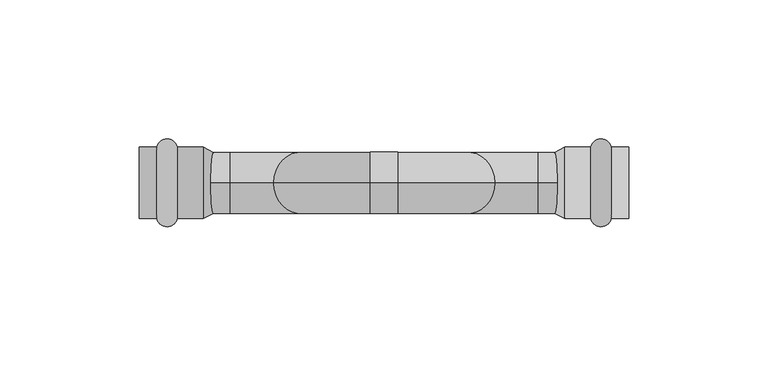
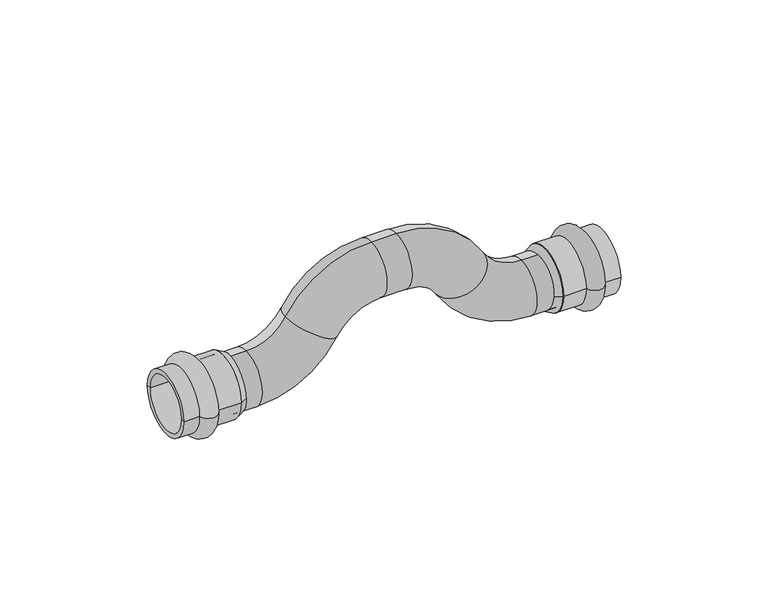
"""IFC4 building model written with IfcOpenShell, lengths in millimetres: pipe fitting geometry, VALTEC_VTi.971.I_Обвод (раструб–раструб)_Нержавеющая сталь : VTi.971.I."""

from ifc_helpers import new_model, si_unit, point, frame, origin, place, context, project, spatial, polyline, circle_curve, ellipse_curve, trimmed, source, transform, mapped, element, save
from ifc_brep_helpers import plane_surface, cylinder_surface, revolved_surface, advanced_brep


def pipe_fitting_e7c7f339(model_context):
    return source(origin(), model_context, "Body", "AdvancedBrep", [
        advanced_brep(
        [(-65.0, 0.0, -11.0), (-65.0, 0.0, 11.0), (-55.5, 0.0, -11.0), (-55.5, 0.0, 11.0), (-5.0, 0.0, 40.0), (-5.0, 0.0, 18.0), (5.0, 0.0, 18.0), (5.0, 0.0, 40.0), (65.0, 0.0, -11.0), (65.0, 0.0, 11.0), (55.5, 0.0, 11.0), (55.5, 0.0, -11.0), (-39.7506266, 0.0, 20.0441946), (-20.7493734, 0.0, 8.9558054), (39.7506266, 0.0, 20.0441946), (20.7493734, 0.0, 8.9558054)],
        [
            (0, 1, circle_curve(frame((-65.0, 0.0, 0.0), z_axis=(-1.0, 0.0, 0.0), x_axis=(0.0, 0.0, 1.0)), 11.0)),
            (1, 0, circle_curve(frame((-65.0, 0.0, 0.0), z_axis=(-1.0, 0.0, 0.0), x_axis=(0.0, 0.0, 1.0)), 11.0)),
            (0, 2),
            (2, 3, circle_curve(frame((-55.5, 0.0, 0.0), z_axis=(-1.0, 0.0, 0.0), x_axis=(0.0, 0.0, 1.0)), 11.0)),
            (3, 1),
            (3, 2, circle_curve(frame((-55.5, 0.0, 0.0), z_axis=(-1.0, 0.0, 0.0), x_axis=(0.0, 0.0, 1.0)), 11.0)),
            (4, 5, circle_curve(frame((-5.0, 0.0, 29.0), z_axis=(1.0, 0.0, 0.0), x_axis=(0.0, 0.0, 1.0)), 11.0)),
            (5, 6),
            (6, 7, circle_curve(frame((5.0, 0.0, 29.0), z_axis=(-1.0, 0.0, 0.0), x_axis=(0.0, 0.0, 1.0)), 11.0)),
            (7, 4),
            (5, 4, circle_curve(frame((-5.0, 0.0, 29.0), z_axis=(1.0, 0.0, 0.0), x_axis=(0.0, 0.0, 1.0)), 11.0)),
            (7, 6, circle_curve(frame((5.0, 0.0, 29.0), z_axis=(-1.0, 0.0, 0.0), x_axis=(0.0, 0.0, 1.0)), 11.0)),
            (8, 9, circle_curve(frame((65.0, 0.0, 0.0), z_axis=(1.0, 0.0, 0.0), x_axis=(0.0, 0.0, 1.0)), 11.0)),
            (9, 8, circle_curve(frame((65.0, 0.0, 0.0), z_axis=(1.0, 0.0, 0.0), x_axis=(0.0, 0.0, 1.0)), 11.0)),
            (10, 11, circle_curve(frame((55.5, 0.0, 0.0), z_axis=(1.0, 0.0, 0.0), x_axis=(0.0, 0.0, 1.0)), 11.0)),
            (11, 8),
            (9, 10),
            (11, 10, circle_curve(frame((55.5, 0.0, 0.0), z_axis=(1.0, 0.0, 0.0), x_axis=(0.0, 0.0, 1.0)), 11.0)),
            (12, 3, circle_curve(frame((-55.5, 0.0, 29.2349138), z_axis=(0.0, 1.0, 0.0), x_axis=(0.0, 0.0, -1.0)), 18.2349138)),
            (2, 13, circle_curve(frame((-55.5, 0.0, 29.2349138), z_axis=(0.0, -1.0, 0.0), x_axis=(0.0, 0.0, -1.0)), 40.2349138)),
            (13, 12, circle_curve(frame((-30.25, 0.0, 14.5), z_axis=(-0.5040176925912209, 0.0, -0.8636933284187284), x_axis=(-0.8636933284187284, 0.0, 0.5040176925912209)), 11.0)),
            (12, 13, circle_curve(frame((-30.25, 0.0, 14.5), z_axis=(-0.5040176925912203, 0.0, -0.8636933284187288), x_axis=(-0.8636933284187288, 0.0, 0.5040176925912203)), 11.0)),
            (4, 12, circle_curve(frame((-5.0, 0.0, -0.2349138), z_axis=(0.0, -1.0, 0.0), x_axis=(-0.8636933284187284, 0.0, 0.5040176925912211)), 40.2349138)),
            (13, 5, circle_curve(frame((-5.0, 0.0, -0.2349138), z_axis=(0.0, 1.0, 0.0), x_axis=(-0.8636933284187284, 0.0, 0.5040176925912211)), 18.2349138)),
            (14, 7, circle_curve(frame((5.0, 0.0, -0.2349138), z_axis=(0.0, -1.0, 0.0), x_axis=(0.0, 0.0, 1.0)), 40.2349138)),
            (6, 15, circle_curve(frame((5.0, 0.0, -0.2349138), z_axis=(0.0, 1.0, 0.0), x_axis=(0.0, 0.0, 1.0)), 18.2349138)),
            (15, 14, circle_curve(frame((30.25, 0.0, 14.5), z_axis=(-0.5040176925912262, 0.0, 0.8636933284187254), x_axis=(0.8636933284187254, 0.0, 0.5040176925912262)), 11.0)),
            (14, 15, circle_curve(frame((30.25, 0.0, 14.5), z_axis=(-0.5040176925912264, 0.0, 0.8636933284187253), x_axis=(0.8636933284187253, 0.0, 0.5040176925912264)), 11.0)),
            (10, 14, circle_curve(frame((55.5, 0.0, 29.2349138), z_axis=(0.0, 1.0, 0.0), x_axis=(-0.863693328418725, 0.0, -0.5040176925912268)), 18.2349138)),
            (15, 11, circle_curve(frame((55.5, 0.0, 29.2349138), z_axis=(0.0, -1.0, 0.0), x_axis=(-0.863693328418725, 0.0, -0.5040176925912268)), 40.2349138)),
        ],
        [
            plane_surface(frame((-65.0, 0.0, 0.0), z_axis=(-1.0, 0.0, 0.0), x_axis=(0.0, -1.0, 0.0))),
            cylinder_surface(frame((-65.0, 0.0, 0.0), z_axis=(-1.0, 0.0, 0.0), x_axis=(0.0, 0.0, 1.0)), 11.0),
            cylinder_surface(frame((-5.0, 0.0, 29.0), z_axis=(-1.0, 0.0, 0.0), x_axis=(0.0, 0.0, 1.0)), 11.0),
            plane_surface(frame((65.0, 0.0, 0.0), z_axis=(1.0, 0.0, 0.0), x_axis=(0.0, -1.0, 0.0))),
            cylinder_surface(frame((55.5, 0.0, 0.0), z_axis=(-1.0, 0.0, 0.0), x_axis=(0.0, 0.0, 1.0)), 11.0),
            revolved_surface(trimmed(ellipse_curve(frame((-55.5, 0.0, 0.0), z_axis=(-1.0, 0.0, 0.0), x_axis=(0.0, 0.0, 1.0)), 11.0, 11.0), [point((-55.5, 0.0, -11.0))], [point((-55.5, 0.0, 11.0))], True, "CARTESIAN"), (-55.5, 0.0, 29.2349138), (0.0, -1.0, 0.0)),
            revolved_surface(trimmed(ellipse_curve(frame((-55.5, 0.0, 0.0), z_axis=(-1.0, 0.0, 0.0), x_axis=(0.0, 0.0, 1.0)), 11.0, 11.0), [point((-55.5, 0.0, 11.0))], [point((-55.5, 0.0, -11.0))], True, "CARTESIAN"), (-55.5, 0.0, 29.2349138), (0.0, -1.0, 0.0)),
            revolved_surface(trimmed(ellipse_curve(frame((-30.25, 0.0, 14.5), z_axis=(-0.5040176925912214, 0.0, -0.8636933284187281), x_axis=(-0.8636933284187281, 0.0, 0.5040176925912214)), 11.0, 11.0), [point((-20.7493734, 0.0, 8.9558054))], [point((-39.7506266, 0.0, 20.0441946))], True, "CARTESIAN"), (-5.0, 0.0, -0.2349138), (0.0, 1.0, 0.0)),
            revolved_surface(trimmed(ellipse_curve(frame((-30.25, 0.0, 14.5), z_axis=(-0.5040176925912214, 0.0, -0.8636933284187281), x_axis=(-0.8636933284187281, 0.0, 0.5040176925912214)), 11.0, 11.0), [point((-39.7506266, 0.0, 20.0441946))], [point((-20.7493734, 0.0, 8.9558054))], True, "CARTESIAN"), (-5.0, 0.0, -0.2349138), (0.0, 1.0, 0.0)),
            revolved_surface(trimmed(ellipse_curve(frame((5.0, 0.0, 29.0), z_axis=(-1.0, 0.0, 0.0), x_axis=(0.0, 0.0, 1.0)), 11.0, 11.0), [point((5.0, 0.0, 18.0))], [point((5.0, 0.0, 40.0))], True, "CARTESIAN"), (5.0, 0.0, -0.2349138), (0.0, 1.0, 0.0)),
            revolved_surface(trimmed(ellipse_curve(frame((5.0, 0.0, 29.0), z_axis=(-1.0, 0.0, 0.0), x_axis=(0.0, 0.0, 1.0)), 11.0, 11.0), [point((5.0, 0.0, 40.0))], [point((5.0, 0.0, 18.0))], True, "CARTESIAN"), (5.0, 0.0, -0.2349138), (0.0, 1.0, 0.0)),
            revolved_surface(trimmed(ellipse_curve(frame((30.25, 0.0, 14.5), z_axis=(-0.5040176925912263, 0.0, 0.8636933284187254), x_axis=(0.8636933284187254, 0.0, 0.5040176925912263)), 11.0, 11.0), [point((20.7493734, 0.0, 8.9558054))], [point((39.7506266, 0.0, 20.0441946))], True, "CARTESIAN"), (55.5, 0.0, 29.2349138), (0.0, -1.0, 0.0)),
            revolved_surface(trimmed(ellipse_curve(frame((30.25, 0.0, 14.5), z_axis=(-0.5040176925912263, 0.0, 0.8636933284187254), x_axis=(0.8636933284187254, 0.0, 0.5040176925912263)), 11.0, 11.0), [point((39.7506266, 0.0, 20.0441946))], [point((20.7493734, 0.0, 8.9558054))], True, "CARTESIAN"), (55.5, 0.0, 29.2349138), (0.0, -1.0, 0.0)),
        ],
        [
            (0, [[1, 2]]),
            (1, [[-1, 3, 4, 5]]),
            (1, [[-2, -5, 6, -3]]),
            (2, [[7, 8, 9, 10]]),
            (2, [[11, -10, 12, -8]]),
            (3, [[13, 14]]),
            (4, [[15, 16, -14, 17]]),
            (4, [[18, -17, -13, -16]]),
            (5, [[19, -4, 20, 21]]),
            (6, [[-20, -6, -19, 22]]),
            (7, [[23, -21, 24, -7]]),
            (8, [[-24, -22, -23, -11]]),
            (9, [[25, -9, 26, 27]]),
            (10, [[-26, -12, -25, 28]]),
            (11, [[29, -27, 30, -15]]),
            (12, [[-30, -28, -29, -18]]),
        ],
    ),
        advanced_brep(
        [(81.6242346, -12.8, 0.0), (74.2757654, -12.8, 0.0), (74.2757654, 12.8, 0.0), (81.6242346, 12.8, 0.0), (88.0, -12.8, 0.0), (88.0, 12.8, 0.0), (88.0, -11.0, 0.0), (88.0, 11.0, 0.0), (65.0, -11.0, 0.0), (65.0, 11.0, 0.0), (65.0, -12.8, 0.0), (65.0, 12.8, 0.0)],
        [
            (0, 1, circle_curve(frame((77.95, -12.05, 0.0), z_axis=(0.0, 0.0, -1.0), x_axis=(-1.0, 0.0, 0.0)), 3.75)),
            (1, 2, circle_curve(frame((74.2757654, 0.0, 0.0), z_axis=(1.0, 0.0, 0.0), x_axis=(0.0, 1.0, 0.0)), 12.8)),
            (2, 3, circle_curve(frame((77.95, 12.05, 0.0), z_axis=(0.0, 0.0, -1.0), x_axis=(-1.0, 0.0, 0.0)), 3.75)),
            (3, 0, circle_curve(frame((81.6242346, 0.0, 0.0), z_axis=(-1.0, 0.0, 0.0), x_axis=(0.0, 1.0, 0.0)), 12.8)),
            (2, 1, circle_curve(frame((74.2757654, 0.0, 0.0), z_axis=(1.0, 0.0, 0.0), x_axis=(0.0, 1.0, 0.0)), 12.8)),
            (0, 3, circle_curve(frame((81.6242346, 0.0, 0.0), z_axis=(-1.0, 0.0, 0.0), x_axis=(0.0, 1.0, 0.0)), 12.8)),
            (4, 0),
            (3, 5),
            (5, 4, circle_curve(frame((88.0, 0.0, 0.0), z_axis=(-1.0, 0.0, 0.0), x_axis=(0.0, 1.0, 0.0)), 12.8)),
            (4, 5, circle_curve(frame((88.0, 0.0, 0.0), z_axis=(-1.0, 0.0, 0.0), x_axis=(0.0, 1.0, 0.0)), 12.8)),
            (6, 4),
            (5, 7),
            (7, 6, circle_curve(frame((88.0, 0.0, 0.0), z_axis=(-1.0, 0.0, 0.0), x_axis=(0.0, 1.0, 0.0)), 11.0)),
            (6, 7, circle_curve(frame((88.0, 0.0, 0.0), z_axis=(-1.0, 0.0, 0.0), x_axis=(0.0, 1.0, 0.0)), 11.0)),
            (8, 6),
            (7, 9),
            (9, 8, circle_curve(frame((65.0, 0.0, 0.0), z_axis=(-1.0, 0.0, 0.0), x_axis=(0.0, 1.0, 0.0)), 11.0)),
            (8, 9, circle_curve(frame((65.0, 0.0, 0.0), z_axis=(-1.0, 0.0, 0.0), x_axis=(0.0, 1.0, 0.0)), 11.0)),
            (10, 8),
            (9, 11),
            (11, 10, circle_curve(frame((65.0, 0.0, 0.0), z_axis=(-1.0, 0.0, 0.0), x_axis=(0.0, 1.0, 0.0)), 12.8)),
            (10, 11, circle_curve(frame((65.0, 0.0, 0.0), z_axis=(-1.0, 0.0, 0.0), x_axis=(0.0, 1.0, 0.0)), 12.8)),
            (1, 10),
            (11, 2),
        ],
        [
            revolved_surface(trimmed(ellipse_curve(frame((77.95, 12.05, 0.0), z_axis=(0.0, 0.0, -1.0), x_axis=(-1.0, 0.0, 0.0)), 3.75, 3.75), [point((74.2757654, 12.8, 0.0))], [point((81.6242346, 12.8, 0.0))], True, "CARTESIAN"), (91.5364426, 0.0, 0.0), (1.0, 0.0, 0.0)),
            cylinder_surface(frame((91.5364426, 0.0, 0.0), z_axis=(1.0, 0.0, 0.0), x_axis=(0.0, 1.0, 0.0)), 12.8),
            plane_surface(frame((88.0, 0.0, 0.0), z_axis=(1.0, 0.0, 0.0), x_axis=(0.0, 1.0, 0.0))),
            revolved_surface(polyline([(88.0, 11.0, 0.0), (65.0, 11.0, 0.0)]), (91.5364426, 0.0, 0.0), (1.0, 0.0, 0.0)),
            plane_surface(frame((65.0, 0.0, 0.0), z_axis=(-1.0, 0.0, 0.0), x_axis=(0.0, 1.0, 0.0))),
        ],
        [
            (0, [[1, 2, 3, 4]]),
            (0, [[-3, 5, -1, 6]]),
            (1, [[7, -4, 8, 9]]),
            (1, [[-8, -6, -7, 10]]),
            (2, [[11, -9, 12, 13]]),
            (2, [[-12, -10, -11, 14]]),
            (3, [[15, -13, 16, 17]]),
            (3, [[-16, -14, -15, 18]]),
            (4, [[19, -17, 20, 21]]),
            (4, [[-20, -18, -19, 22]]),
            (1, [[23, -21, 24, -2]]),
            (1, [[-24, -22, -23, -5]]),
        ],
    ),
        advanced_brep(
        [(-81.6242346, -12.8, 0.0), (-81.6242346, 12.8, 0.0), (-74.2757654, 12.8, 0.0), (-74.2757654, -12.8, 0.0), (-88.0, -12.8, 0.0), (-88.0, 12.8, 0.0), (-88.0, -11.0, 0.0), (-88.0, 11.0, 0.0), (-65.0, -11.0, 0.0), (-65.0, 11.0, 0.0), (-65.0, -12.8, 0.0), (-65.0, 12.8, 0.0)],
        [
            (0, 1, circle_curve(frame((-81.6242346, 0.0, 0.0), z_axis=(1.0, 0.0, 0.0), x_axis=(0.0, 1.0, 0.0)), 12.8)),
            (1, 2, circle_curve(frame((-77.95, 12.05, 0.0), z_axis=(0.0, 0.0, -1.0), x_axis=(1.0, 0.0, 0.0)), 3.75)),
            (2, 3, circle_curve(frame((-74.2757654, 0.0, 0.0), z_axis=(-1.0, 0.0, 0.0), x_axis=(0.0, 1.0, 0.0)), 12.8)),
            (3, 0, circle_curve(frame((-77.95, -12.05, 0.0), z_axis=(0.0, 0.0, -1.0), x_axis=(1.0, 0.0, 0.0)), 3.75)),
            (1, 0, circle_curve(frame((-81.6242346, 0.0, 0.0), z_axis=(1.0, 0.0, 0.0), x_axis=(0.0, 1.0, 0.0)), 12.8)),
            (3, 2, circle_curve(frame((-74.2757654, 0.0, 0.0), z_axis=(-1.0, 0.0, 0.0), x_axis=(0.0, 1.0, 0.0)), 12.8)),
            (4, 5, circle_curve(frame((-88.0, 0.0, 0.0), z_axis=(1.0, 0.0, 0.0), x_axis=(0.0, 1.0, 0.0)), 12.8)),
            (5, 1),
            (0, 4),
            (5, 4, circle_curve(frame((-88.0, 0.0, 0.0), z_axis=(1.0, 0.0, 0.0), x_axis=(0.0, 1.0, 0.0)), 12.8)),
            (6, 7, circle_curve(frame((-88.0, 0.0, 0.0), z_axis=(1.0, 0.0, 0.0), x_axis=(0.0, 1.0, 0.0)), 11.0)),
            (7, 5),
            (4, 6),
            (7, 6, circle_curve(frame((-88.0, 0.0, 0.0), z_axis=(1.0, 0.0, 0.0), x_axis=(0.0, 1.0, 0.0)), 11.0)),
            (8, 9, circle_curve(frame((-65.0, 0.0, 0.0), z_axis=(1.0, 0.0, 0.0), x_axis=(0.0, 1.0, 0.0)), 11.0)),
            (9, 7),
            (6, 8),
            (9, 8, circle_curve(frame((-65.0, 0.0, 0.0), z_axis=(1.0, 0.0, 0.0), x_axis=(0.0, 1.0, 0.0)), 11.0)),
            (10, 11, circle_curve(frame((-65.0, 0.0, 0.0), z_axis=(1.0, 0.0, 0.0), x_axis=(0.0, 1.0, 0.0)), 12.8)),
            (11, 9),
            (8, 10),
            (11, 10, circle_curve(frame((-65.0, 0.0, 0.0), z_axis=(1.0, 0.0, 0.0), x_axis=(0.0, 1.0, 0.0)), 12.8)),
            (2, 11),
            (10, 3),
        ],
        [
            revolved_surface(trimmed(ellipse_curve(frame((-77.95, 12.05, 0.0), z_axis=(0.0, 0.0, 1.0), x_axis=(1.0, 0.0, 0.0)), 3.75, 3.75), [point((-74.2757654, 12.8, 0.0))], [point((-81.6242346, 12.8, 0.0))], True, "CARTESIAN"), (-91.5364426, 0.0, 0.0), (-1.0, 0.0, 0.0)),
            cylinder_surface(frame((-91.5364426, 0.0, 0.0), z_axis=(-1.0, 0.0, 0.0), x_axis=(0.0, 1.0, 0.0)), 12.8),
            plane_surface(frame((-88.0, 0.0, 0.0), z_axis=(-1.0, 0.0, 0.0), x_axis=(0.0, 1.0, 0.0))),
            revolved_surface(polyline([(-88.0, 11.0, 0.0), (-65.0, 11.0, 0.0)]), (-91.5364426, 0.0, 0.0), (-1.0, 0.0, 0.0)),
            plane_surface(frame((-65.0, 0.0, 0.0), z_axis=(1.0, 0.0, 0.0), x_axis=(0.0, 1.0, 0.0))),
        ],
        [
            (0, [[1, 2, 3, 4]]),
            (0, [[5, -4, 6, -2]]),
            (1, [[7, 8, -1, 9]]),
            (1, [[10, -9, -5, -8]]),
            (2, [[11, 12, -7, 13]]),
            (2, [[14, -13, -10, -12]]),
            (3, [[15, 16, -11, 17]]),
            (3, [[18, -17, -14, -16]]),
            (4, [[19, 20, -15, 21]]),
            (4, [[22, -21, -18, -20]]),
            (1, [[-3, 23, -19, 24]]),
            (1, [[-6, -24, -22, -23]]),
        ],
    ),
        advanced_brep(
        [(65.0, 12.8, 0.0), (65.0, -12.8, 0.0), (61.3, 11.0, 0.0), (61.3, -11.0, 0.0)],
        [
            (0, 1, circle_curve(frame((65.0, 0.0, 0.0), z_axis=(1.0, 0.0, 0.0), x_axis=(0.0, 1.0, 0.0)), 12.8)),
            (1, 0, circle_curve(frame((65.0, 0.0, 0.0), z_axis=(1.0, 0.0, 0.0), x_axis=(0.0, -1.0, 0.0)), 12.8)),
            (2, 3, circle_curve(frame((61.3, 0.0, 0.0), z_axis=(-1.0, 0.0, 0.0), x_axis=(0.0, -1.0, 0.0)), 11.0)),
            (3, 2, circle_curve(frame((61.3, 0.0, 0.0), z_axis=(-1.0, 0.0, 0.0), x_axis=(0.0, 1.0, 0.0)), 11.0)),
            (1, 3),
            (2, 0),
        ],
        [
            plane_surface(frame((65.0, 0.0, 0.0), z_axis=(1.0, 0.0, 0.0), x_axis=(0.0, 0.0, -1.0))),
            plane_surface(frame((61.3, 0.0, 0.0), z_axis=(-1.0, 0.0, 0.0), x_axis=(0.0, 0.0, -1.0))),
            revolved_surface(polyline([(61.3, 10.999999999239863, 0.0), (65.0, 12.8, 0.0)]), (38.6888889, 0.0, 0.0), (1.0, 0.0, 0.0)),
            revolved_surface(polyline([(61.3, -10.999999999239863, 0.0), (65.0, -12.8, 0.0)]), (38.6888889, 0.0, 0.0), (1.0, 0.0, 0.0)),
        ],
        [
            (0, [[1, 2]]),
            (1, [[3, 4]]),
            (2, [[-2, 5, -3, 6]]),
            (3, [[-1, -6, -4, -5]]),
        ],
    ),
        advanced_brep(
        [(-65.0, 12.8, 0.0), (-65.0, -12.8, 0.0), (-61.3, 11.0, 0.0), (-61.3, -11.0, 0.0)],
        [
            (0, 1, circle_curve(frame((-65.0, 0.0, 0.0), z_axis=(-1.0, 0.0, 0.0), x_axis=(0.0, 1.0, 0.0)), 12.8)),
            (1, 0, circle_curve(frame((-65.0, 0.0, 0.0), z_axis=(-1.0, 0.0, 0.0), x_axis=(0.0, -1.0, 0.0)), 12.8)),
            (2, 3, circle_curve(frame((-61.3, 0.0, 0.0), z_axis=(1.0, 0.0, 0.0), x_axis=(0.0, -1.0, 0.0)), 11.0)),
            (3, 2, circle_curve(frame((-61.3, 0.0, 0.0), z_axis=(1.0, 0.0, 0.0), x_axis=(0.0, 1.0, 0.0)), 11.0)),
            (0, 2),
            (3, 1),
        ],
        [
            plane_surface(frame((-65.0, 0.0, 0.0), z_axis=(-1.0, 0.0, 0.0), x_axis=(0.0, 0.0, 1.0))),
            plane_surface(frame((-61.3, 0.0, 0.0), z_axis=(1.0, 0.0, 0.0), x_axis=(0.0, 0.0, 1.0))),
            revolved_surface(polyline([(-61.3, -10.999999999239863, 0.0), (-65.0, -12.8, 0.0)]), (-38.6888889, 0.0, 0.0), (-1.0, 0.0, 0.0)),
            revolved_surface(polyline([(-61.3, 10.999999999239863, 0.0), (-65.0, 12.8, 0.0)]), (-38.6888889, 0.0, 0.0), (-1.0, 0.0, 0.0)),
        ],
        [
            (0, [[1, 2]]),
            (1, [[3, 4]]),
            (2, [[-1, 5, -4, 6]]),
            (3, [[-2, -6, -3, -5]]),
        ],
    ),
    ])


if __name__ == "__main__":
    model = new_model("IFC4")
    model_context = context("Model", 3, world=origin())
    ifc_project = project(units=[si_unit("LENGTHUNIT", "METRE", prefix="MILLI")], contexts=[model_context])
    site = spatial("IfcSite", under=ifc_project)
    building = spatial("IfcBuilding", under=site)
    placement = place(None, origin())
    pipe_fitting_shape = pipe_fitting_e7c7f339(model_context)
    element("IfcPipeFitting", 1, ObjectType="VALTEC_VTi.971.I_Обвод (раструб–раструб)_Нержавеющая сталь : VTi.971.I", at=placement, inside=building, context=model_context, shape_type="MappedRepresentation", body=[
        mapped(pipe_fitting_shape, transform((0.0, 0.0, 0.0), x_axis=(1.0, 0.0, 0.0), y_axis=(0.0, 1.0, 0.0), z_axis=(0.0, 0.0, 1.0))),
    ])
    save(model, "model.ifc")
